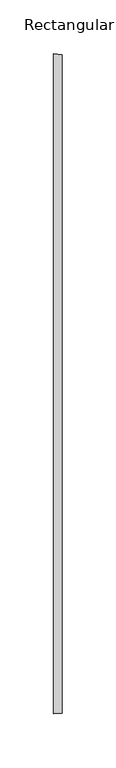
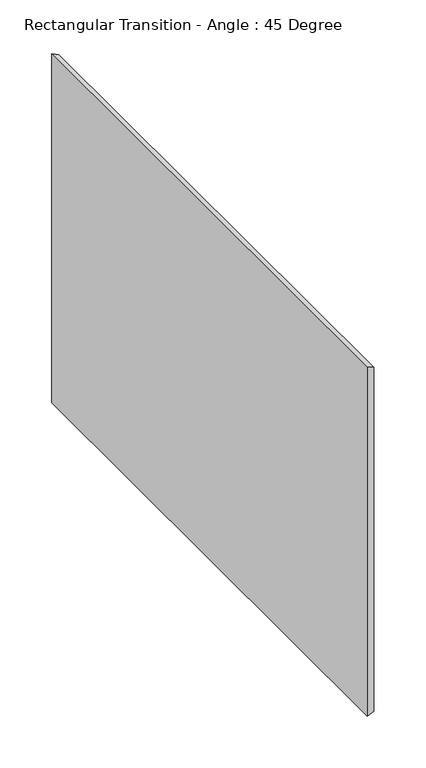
"""IFC4 building model written with IfcOpenShell, lengths in millimetres: duct fitting geometry, Rectangular Transition - Angle : 45 Degree."""

from ifc_helpers import new_model, si_unit, origin, place, context, project, spatial, faceted_brep, source, transform, mapped, element, save


def rectangular_transition_angle_45_degree_bb6b805d(model_context):
    return source(origin(), model_context, "Body", "Brep", [
        faceted_brep([(7.6651281, -304.8, 203.2), (7.6651281, -304.8, -203.2), (7.6651281, 304.8, -203.2), (7.6651281, 304.8, 203.2), (0.0, -305.59375, 206.375), (0.0, 305.59375, 206.375), (0.0, 305.59375, -206.375), (0.0, -305.59375, -206.375)], [[[0, 1, 2, 3]], [[4, 5, 6, 7]], [[4, 7, 1, 0]], [[7, 6, 2, 1]], [[6, 5, 3, 2]], [[5, 4, 0, 3]]]),
    ])


if __name__ == "__main__":
    model = new_model("IFC4")
    model_context = context("Model", 3, world=origin())
    ifc_project = project(units=[si_unit("LENGTHUNIT", "METRE", prefix="MILLI")], contexts=[model_context])
    site = spatial("IfcSite", under=ifc_project)
    building = spatial("IfcBuilding", under=site)
    placement = place(None, origin())
    rectangular_transition_angle_45_degree_shape = rectangular_transition_angle_45_degree_bb6b805d(model_context)
    element("IfcDuctFitting", 1, ObjectType="Rectangular Transition - Angle : 45 Degree", at=placement, inside=building, context=model_context, shape_type="MappedRepresentation", body=[
        mapped(rectangular_transition_angle_45_degree_shape, transform((0.0, 0.0, 0.0), x_axis=(1.0, 0.0, 0.0), y_axis=(0.0, 1.0, 0.0), z_axis=(0.0, 0.0, 1.0))),
    ])
    save(model, "model.ifc")
